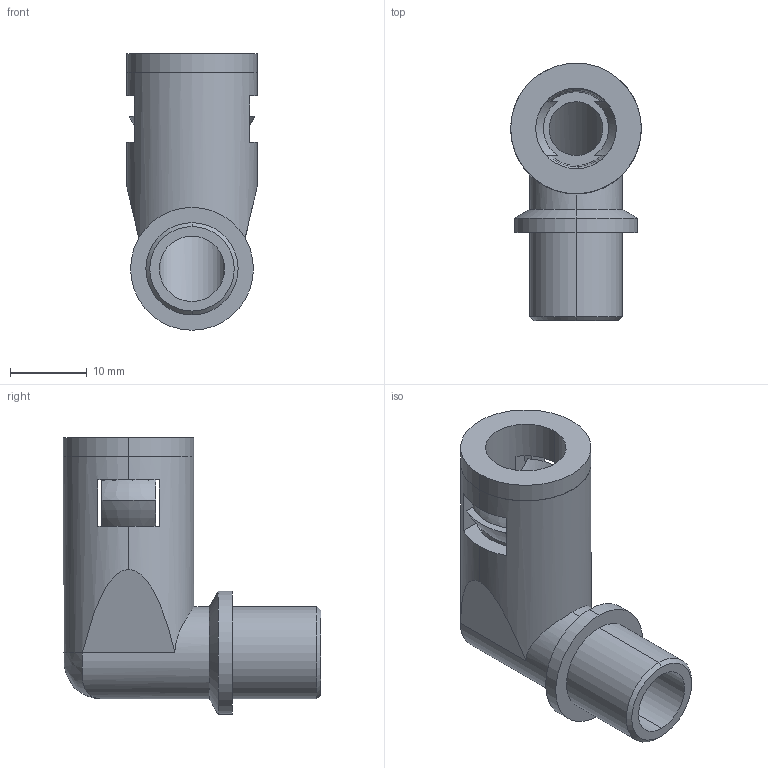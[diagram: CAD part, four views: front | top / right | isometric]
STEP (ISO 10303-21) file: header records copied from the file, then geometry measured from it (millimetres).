
FILE_DESCRIPTION (( 'STEP AP203' ), '1' );
FILE_NAME ('WQW-M12-AD10.0.STEP', '2020-03-16T02:44:58', ( '' ), ( '' ), 'SwSTEP 2.0', 'SolidWorks 2016', '' );
FILE_SCHEMA (( 'CONFIG_CONTROL_DESIGN' ));
Length unit declared in the file: millimetre
Products named in the file (4): WQW-M12-AD10.0; NSK-AD10.0; GFD-AD10.0
Assembly tree (3 placements, depth 2):
  WQW-M12-AD10.0
    WQW-M12-AD10.0
    GFD-AD10.0
    NSK-AD10.0
Bounding box: 17 x 33.5 x 36 mm (x, y, z)
Volume: 6018.8 mm3; surface area: 6834.7 mm2
Topology: 2 solids, 5 shells, 126 faces, 310 edges, 186 vertices
Faces by surface type: cone 46, plane 38, cylinder 26, torus 15, bspline 1
Entity records: 4377 total; most frequent: CARTESIAN_POINT 936, DIRECTION 696, ORIENTED_EDGE 610, EDGE_CURVE 307, AXIS2_PLACEMENT_3D 288, VERTEX_POINT 186, CIRCLE 156, EDGE_LOOP 136
